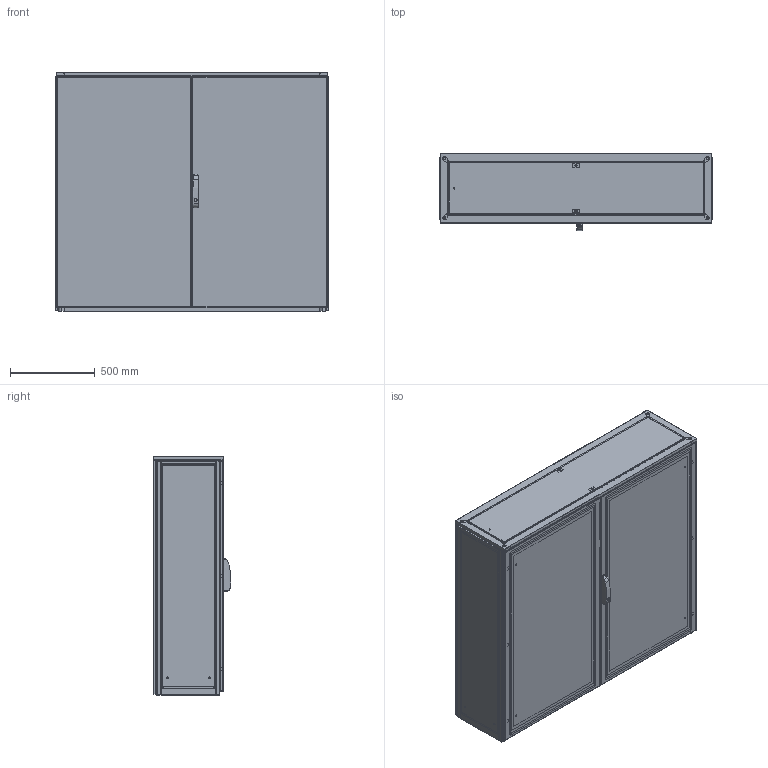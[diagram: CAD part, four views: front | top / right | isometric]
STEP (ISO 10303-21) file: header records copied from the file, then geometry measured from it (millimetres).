
FILE_DESCRIPTION(/* description */ ('STEP AP214'),/* implementation_level */ '2;1');
FILE_NAME(/* name */ 'ENUX161404PR -LOD350',/* time_stamp */ '2025-10-06T10:13:51+02:00',/* author */ ('License CC BY-ND 4.0'),/* organization */ ('CADENAS'),/* preprocessor_version */ 'ST-DEVELOPER v19.3',/* originating_system */ 'PARTsolutions',/* authorisation */ ' ');
FILE_SCHEMA (('AUTOMOTIVE_DESIGN {1 0 10303 214 3 1 1}'));
Length unit declared in the file: millimetre
Products named in the file (11): ENUX161404PR  -LOD350; ENUX161404PR  -LOD3501; ENUX161404PR  -LOD3507; ENUX161404PR  -LOD3502; ENUX161404PR  -LOD35011; ENUX161404PR  -LOD3503; ENUX161404PR  -LOD3508; ENUX161404PR  -LOD3505; ENUX161404PR  -LOD3504; ENUX161404PR  -LOD35010; ENUX161404PR  -LOD3509
Assembly tree (15 placements, depth 2):
  ENUX161404PR  -LOD350
    ENUX161404PR  -LOD3501
    ENUX161404PR  -LOD3507  x2
    ENUX161404PR  -LOD3502
    ENUX161404PR  -LOD35011
    ENUX161404PR  -LOD3503
    ENUX161404PR  -LOD3508
    ENUX161404PR  -LOD3505
    ENUX161404PR  -LOD3504
    ENUX161404PR  -LOD35010  x4
    ENUX161404PR  -LOD3509  x2
Bounding box: 1612 x 457 x 1408.5 mm (x, y, z)
Volume: 26682310 mm3; surface area: 20314499.2 mm2
Topology: 15 solids, 22 shells, 1414 faces, 3793 edges, 2476 vertices
Faces by surface type: plane 840, cylinder 524, torus 30, cone 12, sphere 8
Full cylindrical faces by diameter (mm): 6 x15, 9 x13, 12 x4, 14 x2, 17 x2, 28 x2
Entity records: 36142 total; most frequent: CARTESIAN_POINT 6619, DIRECTION 6135, ORIENTED_EDGE 6046, EDGE_CURVE 3023, AXIS2_PLACEMENT_3D 2047, LINE 2041, VECTOR 2041, VERTEX_POINT 1998
